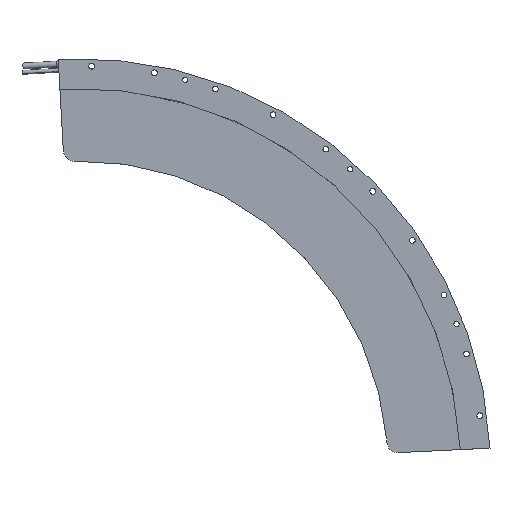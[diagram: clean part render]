
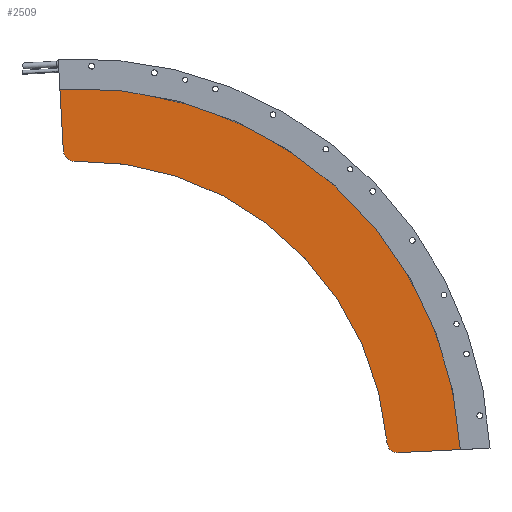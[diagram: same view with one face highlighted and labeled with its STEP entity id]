
A CAD part, top view. The second image highlights one B-rep face of the part: STEP entity #2509.
In plain terms, the highlighted planar face has unit normal (0, 0, 1).
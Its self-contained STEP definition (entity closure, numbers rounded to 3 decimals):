
#19 = DIRECTION ( 'NONE',  ( 0.743, -0.669, 0. ) ) ;
#91 = ORIENTED_EDGE ( 'NONE', *, *, #1160, .T. ) ;
#250 = CARTESIAN_POINT ( 'NONE',  ( -21.101, 377.411, 4.75 ) ) ;
#309 = EDGE_CURVE ( 'NONE', #1820, #389, #2346, .T. ) ;
#389 = VERTEX_POINT ( 'NONE', #2804 ) ;
#539 = CARTESIAN_POINT ( 'NONE',  ( 377.549, 18.465, 4.75 ) ) ;
#572 = DIRECTION ( 'NONE',  ( 0.743, -0.669, 0. ) ) ;
#591 = CIRCLE ( 'NONE', #789, 10. ) ;
#787 = AXIS2_PLACEMENT_3D ( 'NONE', #3704, #1283, #1242 ) ;
#789 = AXIS2_PLACEMENT_3D ( 'NONE', #883, #3379, #3084 ) ;
#883 = CARTESIAN_POINT ( 'NONE',  ( -6.976, 303.92, 4.75 ) ) ;
#913 = VERTEX_POINT ( 'NONE', #539 ) ;
#964 = AXIS2_PLACEMENT_3D ( 'NONE', #1500, #2701, #3917 ) ;
#1053 = VECTOR ( 'NONE', #1813, 1000. ) ;
#1160 = EDGE_CURVE ( 'NONE', #389, #2608, #3021, .T. ) ;
#1205 = FACE_OUTER_BOUND ( 'NONE', #1880, .T. ) ;
#1242 = DIRECTION ( 'NONE',  ( 0.743, -0.669, 0. ) ) ;
#1283 = DIRECTION ( 'NONE',  ( 0., 0., 1. ) ) ;
#1329 = CARTESIAN_POINT ( 'NONE',  ( -21.101, 377.411, 4.75 ) ) ;
#1371 = LINE ( 'NONE', #250, #2513 ) ;
#1500 = CARTESIAN_POINT ( 'NONE',  ( 0., 0., 4.75 ) ) ;
#1527 = ORIENTED_EDGE ( 'NONE', *, *, #2028, .T. ) ;
#1578 = VERTEX_POINT ( 'NONE', #1881 ) ;
#1637 = EDGE_CURVE ( 'NONE', #3879, #1578, #1371, .T. ) ;
#1735 = DIRECTION ( 'NONE',  ( 0.056, -0.998, 0. ) ) ;
#1813 = DIRECTION ( 'NONE',  ( 0.999, 0.049, 0. ) ) ;
#1820 = VERTEX_POINT ( 'NONE', #3705 ) ;
#1880 = EDGE_LOOP ( 'NONE', ( #3218, #91, #1527, #2662, #3468, #3659 ) ) ;
#1881 = CARTESIAN_POINT ( 'NONE',  ( -16.961, 303.362, 4.75 ) ) ;
#2028 = EDGE_CURVE ( 'NONE', #2608, #913, #2157, .T. ) ;
#2057 = DIRECTION ( 'NONE',  ( 0., 0., 1. ) ) ;
#2157 = LINE ( 'NONE', #3020, #1053 ) ;
#2346 = CIRCLE ( 'NONE', #964, 294. ) ;
#2369 = PLANE ( 'NONE',  #3630 ) ;
#2384 = AXIS2_PLACEMENT_3D ( 'NONE', #3076, #3661, #19 ) ;
#2488 = CIRCLE ( 'NONE', #787, 378. ) ;
#2509 = ADVANCED_FACE ( 'NONE', ( #1205 ), #2369, .T. ) ;
#2513 = VECTOR ( 'NONE', #1735, 1000. ) ;
#2608 = VERTEX_POINT ( 'NONE', #2875 ) ;
#2662 = ORIENTED_EDGE ( 'NONE', *, *, #2807, .T. ) ;
#2701 = DIRECTION ( 'NONE',  ( 0., 0., -1. ) ) ;
#2804 = CARTESIAN_POINT ( 'NONE',  ( 293.018, 24.014, 4.75 ) ) ;
#2807 = EDGE_CURVE ( 'NONE', #913, #3879, #2488, .T. ) ;
#2875 = CARTESIAN_POINT ( 'NONE',  ( 303.473, 14.842, 4.75 ) ) ;
#3020 = CARTESIAN_POINT ( 'NONE',  ( 377.549, 18.465, 4.75 ) ) ;
#3021 = CIRCLE ( 'NONE', #2384, 10. ) ;
#3076 = CARTESIAN_POINT ( 'NONE',  ( 302.984, 24.83, 4.75 ) ) ;
#3084 = DIRECTION ( 'NONE',  ( 0.743, -0.669, 0. ) ) ;
#3218 = ORIENTED_EDGE ( 'NONE', *, *, #309, .T. ) ;
#3379 = DIRECTION ( 'NONE',  ( 0., 0., 1. ) ) ;
#3468 = ORIENTED_EDGE ( 'NONE', *, *, #1637, .T. ) ;
#3589 = CARTESIAN_POINT ( 'NONE',  ( 0., 0., 4.75 ) ) ;
#3630 = AXIS2_PLACEMENT_3D ( 'NONE', #3589, #2057, #572 ) ;
#3659 = ORIENTED_EDGE ( 'NONE', *, *, #3794, .T. ) ;
#3661 = DIRECTION ( 'NONE',  ( 0., 0., 1. ) ) ;
#3704 = CARTESIAN_POINT ( 'NONE',  ( 0., 0., 4.75 ) ) ;
#3705 = CARTESIAN_POINT ( 'NONE',  ( -6.747, 293.923, 4.75 ) ) ;
#3794 = EDGE_CURVE ( 'NONE', #1578, #1820, #591, .T. ) ;
#3879 = VERTEX_POINT ( 'NONE', #1329 ) ;
#3917 = DIRECTION ( 'NONE',  ( 0.743, -0.669, 0. ) ) ;
